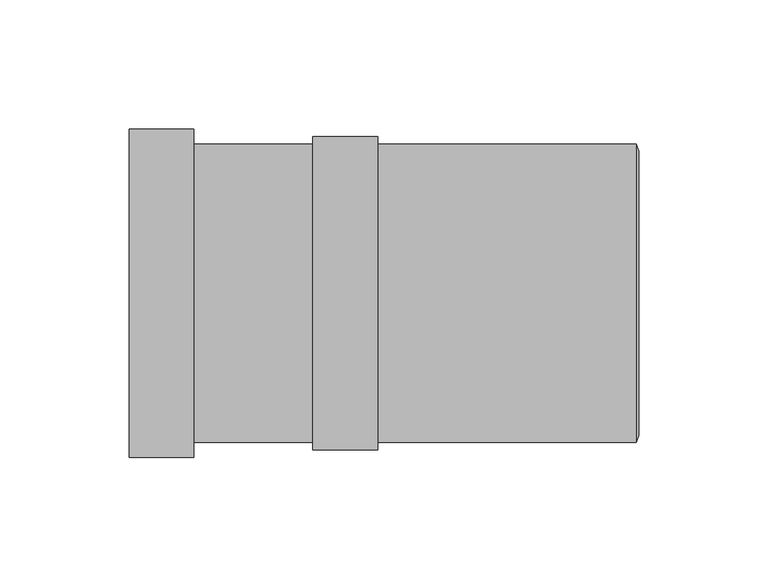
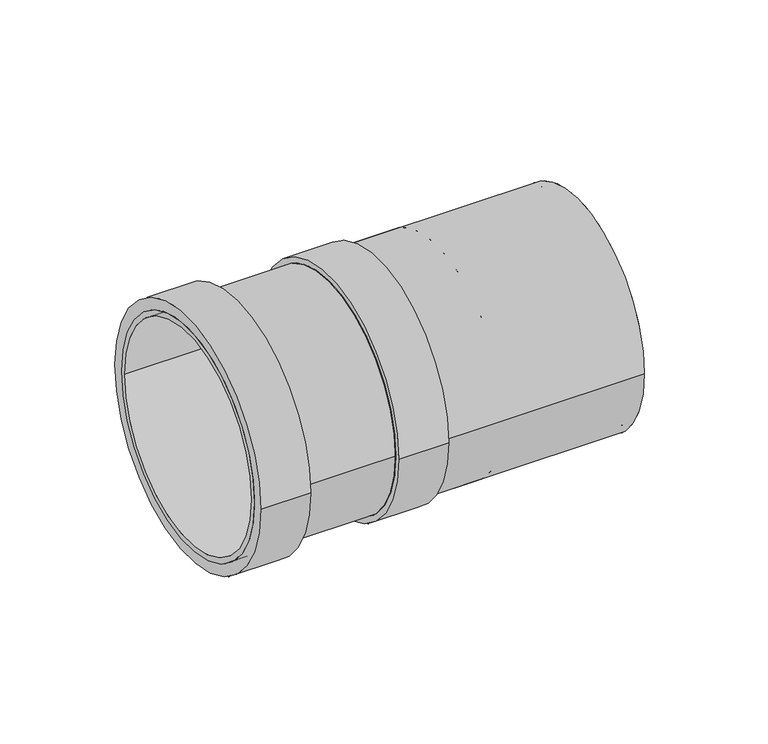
"""IFC4 building model written with IfcOpenShell, lengths in millimetres: pipe fitting geometry, Superdrain SKL Long socket : Superdrain SKL Long socket."""

from ifc_helpers import new_model, si_unit, point, frame, origin, origin_2d, place, context, project, spatial, polyline, circle_curve, trimmed, segment, composite_curve, outline, extrude, source, transform, mapped, element, save
from ifc_brep_helpers import plane_surface, revolved_surface, advanced_brep


def pipe_fitting_97cefcbb(model_context):
    return source(origin(), model_context, "Body", "SolidModel", [
        extrude(outline(composite_curve([segment(trimmed(circle_curve(origin_2d(), 57.75), [point((-57.75, 0.0))], [point((57.75, 0.0))], False, "CARTESIAN"), True, "CONTINUOUS"), segment(trimmed(circle_curve(origin_2d(), 57.75), [point((57.75, 0.0))], [point((-57.75, 0.0))], False, "CARTESIAN"), True, "CONTINUOUS")], self_intersect=False), holes=[composite_curve([segment(trimmed(circle_curve(origin_2d(), 55.0), [point((-55.0, 0.0))], [point((55.0, 0.0))], True, "CARTESIAN"), True, "CONTINUOUS"), segment(trimmed(circle_curve(origin_2d(), 55.0), [point((55.0, 0.0))], [point((-55.0, 0.0))], True, "CARTESIAN"), True, "CONTINUOUS")], self_intersect=False)]), frame((-64.0, 0.0, 0.0), z_axis=(1.0, 0.0, 0.0), x_axis=(0.0, 1.0, 0.0)), (0.0, 0.0, 1.0), 125.0),
        extrude(outline(composite_curve([segment(trimmed(circle_curve(origin_2d(), 60.6375), [point((-60.6375, 0.0))], [point((60.6375, 0.0))], False, "CARTESIAN"), True, "CONTINUOUS"), segment(trimmed(circle_curve(origin_2d(), 60.6375), [point((60.6375, 0.0))], [point((-60.6375, 0.0))], False, "CARTESIAN"), True, "CONTINUOUS")], self_intersect=False), holes=[composite_curve([segment(trimmed(circle_curve(origin_2d(), 55.0), [point((-55.0, 0.0))], [point((55.0, 0.0))], True, "CARTESIAN"), True, "CONTINUOUS"), segment(trimmed(circle_curve(origin_2d(), 55.0), [point((55.0, 0.0))], [point((-55.0, 0.0))], True, "CARTESIAN"), True, "CONTINUOUS")], self_intersect=False)]), frame((-64.0, 0.0, 0.0), z_axis=(1.0, 0.0, 0.0), x_axis=(0.0, 1.0, 0.0)), (0.0, 0.0, 1.0), 25.0),
        advanced_brep(
        [(62.0, -55.0, 0.0), (62.0, 55.0, 0.0), (61.0, -57.75, 0.0), (61.0, 57.75, 0.0)],
        [
            (0, 1, circle_curve(frame((62.0, 0.0, 0.0), z_axis=(1.0, 0.0, 0.0), x_axis=(0.0, -1.0, 0.0)), 55.0)),
            (1, 0, circle_curve(frame((62.0, 0.0, 0.0), z_axis=(1.0, 0.0, 0.0), x_axis=(0.0, 1.0, 0.0)), 55.0)),
            (2, 3, circle_curve(frame((61.0, 0.0, 0.0), z_axis=(-1.0, 0.0, 0.0), x_axis=(0.0, 1.0, 0.0)), 57.75)),
            (3, 2, circle_curve(frame((61.0, 0.0, 0.0), z_axis=(-1.0, 0.0, 0.0), x_axis=(0.0, -1.0, 0.0)), 57.75)),
            (3, 1),
            (0, 2),
        ],
        [
            plane_surface(frame((62.0, 0.0, 0.0), z_axis=(1.0, 0.0, 0.0), x_axis=(0.0, 0.0, -1.0))),
            plane_surface(frame((61.0, 0.0, 0.0), z_axis=(-1.0, 0.0, 0.0), x_axis=(0.0, 0.0, -1.0))),
            revolved_surface(polyline([(62.0, -55.0, 0.0), (61.0, -57.75, 0.0)]), (82.0, 0.0, 0.0), (-1.0, 0.0, 0.0)),
            revolved_surface(polyline([(62.0, 55.0, 0.0), (61.0, 57.75, 0.0)]), (82.0, 0.0, 0.0), (-1.0, 0.0, 0.0)),
        ],
        [
            (0, [[1, 2]]),
            (1, [[3, 4]]),
            (2, [[-4, 5, -1, 6]]),
            (3, [[-3, -6, -2, -5]]),
        ],
    ),
        extrude(outline(composite_curve([segment(trimmed(circle_curve(origin_2d(), 57.75), [point((-57.75, 0.0))], [point((57.75, 0.0))], False, "CARTESIAN"), True, "CONTINUOUS"), segment(trimmed(circle_curve(origin_2d(), 57.75), [point((57.75, 0.0))], [point((-57.75, 0.0))], False, "CARTESIAN"), True, "CONTINUOUS")], self_intersect=False), holes=[composite_curve([segment(trimmed(circle_curve(origin_2d(), 55.0), [point((-55.0, 0.0))], [point((55.0, 0.0))], True, "CARTESIAN"), True, "CONTINUOUS"), segment(trimmed(circle_curve(origin_2d(), 55.0), [point((55.0, 0.0))], [point((-55.0, 0.0))], True, "CARTESIAN"), True, "CONTINUOUS")], self_intersect=False)]), frame((-135.0, 0.0, 0.0), z_axis=(1.0, 0.0, 0.0), x_axis=(0.0, 1.0, 0.0)), (0.0, 0.0, 1.0), 125.0),
        extrude(outline(composite_curve([segment(trimmed(circle_curve(origin_2d(), 63.525), [point((-63.525, 0.0))], [point((63.525, 0.0))], False, "CARTESIAN"), True, "CONTINUOUS"), segment(trimmed(circle_curve(origin_2d(), 63.525), [point((63.525, 0.0))], [point((-63.525, 0.0))], False, "CARTESIAN"), True, "CONTINUOUS")], self_intersect=False), holes=[composite_curve([segment(trimmed(circle_curve(origin_2d(), 55.0), [point((-55.0, 0.0))], [point((55.0, 0.0))], True, "CARTESIAN"), True, "CONTINUOUS"), segment(trimmed(circle_curve(origin_2d(), 55.0), [point((55.0, 0.0))], [point((-55.0, 0.0))], True, "CARTESIAN"), True, "CONTINUOUS")], self_intersect=False)]), frame((-135.0, 0.0, 0.0), z_axis=(1.0, 0.0, 0.0), x_axis=(0.0, 1.0, 0.0)), (0.0, 0.0, 1.0), 25.0),
        advanced_brep(
        [(-9.0, -55.0, 0.0), (-9.0, 55.0, 0.0), (-10.0, -57.75, 0.0), (-10.0, 57.75, 0.0)],
        [
            (0, 1, circle_curve(frame((-9.0, 0.0, 0.0), z_axis=(1.0, 0.0, 0.0), x_axis=(0.0, -1.0, 0.0)), 55.0)),
            (1, 0, circle_curve(frame((-9.0, 0.0, 0.0), z_axis=(1.0, 0.0, 0.0), x_axis=(0.0, 1.0, 0.0)), 55.0)),
            (2, 3, circle_curve(frame((-10.0, 0.0, 0.0), z_axis=(-1.0, 0.0, 0.0), x_axis=(0.0, 1.0, 0.0)), 57.75)),
            (3, 2, circle_curve(frame((-10.0, 0.0, 0.0), z_axis=(-1.0, 0.0, 0.0), x_axis=(0.0, -1.0, 0.0)), 57.75)),
            (3, 1),
            (0, 2),
        ],
        [
            plane_surface(frame((-9.0, 0.0, 0.0), z_axis=(1.0, 0.0, 0.0), x_axis=(0.0, 0.0, -1.0))),
            plane_surface(frame((-10.0, 0.0, 0.0), z_axis=(-1.0, 0.0, 0.0), x_axis=(0.0, 0.0, -1.0))),
            revolved_surface(polyline([(-9.0, -55.0, 0.0), (-10.0, -57.75, 0.0)]), (11.0, 0.0, 0.0), (-1.0, 0.0, 0.0)),
            revolved_surface(polyline([(-9.0, 55.0, 0.0), (-10.0, 57.75, 0.0)]), (11.0, 0.0, 0.0), (-1.0, 0.0, 0.0)),
        ],
        [
            (0, [[1, 2]]),
            (1, [[3, 4]]),
            (2, [[-4, 5, -1, 6]]),
            (3, [[-3, -6, -2, -5]]),
        ],
    ),
        extrude(outline(composite_curve([segment(trimmed(circle_curve(origin_2d(), 55.0), [point((-55.0, 0.0))], [point((55.0, 0.0))], False, "CARTESIAN"), True, "CONTINUOUS"), segment(trimmed(circle_curve(origin_2d(), 55.0), [point((55.0, 0.0))], [point((-55.0, 0.0))], False, "CARTESIAN"), True, "CONTINUOUS")], self_intersect=False)), frame((-10.0, 0.0, 0.0), z_axis=(1.0, 0.0, 0.0), x_axis=(0.0, 1.0, 0.0)), (0.0, 0.0, 1.0), 71.0),
    ])


if __name__ == "__main__":
    model = new_model("IFC4")
    model_context = context("Model", 3, world=origin())
    ifc_project = project(units=[si_unit("LENGTHUNIT", "METRE", prefix="MILLI")], contexts=[model_context])
    site = spatial("IfcSite", under=ifc_project)
    building = spatial("IfcBuilding", under=site)
    placement = place(None, origin())
    pipe_fitting_shape = pipe_fitting_97cefcbb(model_context)
    element("IfcPipeFitting", 1, ObjectType="Superdrain SKL Long socket : Superdrain SKL Long socket", at=placement, inside=building, context=model_context, shape_type="MappedRepresentation", body=[
        mapped(pipe_fitting_shape, transform((0.0, 0.0, 0.0), x_axis=(1.0, 0.0, 0.0), y_axis=(0.0, 1.0, 0.0), z_axis=(0.0, 0.0, 1.0))),
    ])
    save(model, "model.ifc")
